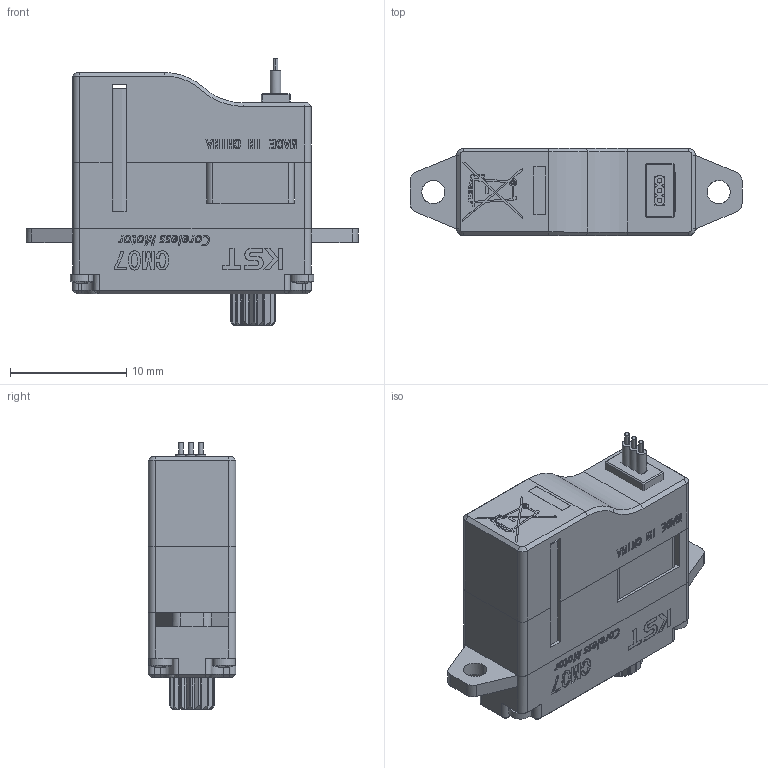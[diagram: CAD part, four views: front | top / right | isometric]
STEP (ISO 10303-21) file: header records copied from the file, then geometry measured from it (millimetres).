
FILE_DESCRIPTION (( 'STEP AP214' ), '1' );
FILE_NAME ('CM07_DM202602.STEP', '2026-05-23T06:09:05', ( '' ), ( '' ), 'SwSTEP 2.0', 'SolidWorks 2016', '' );
FILE_SCHEMA (( 'AUTOMOTIVE_DESIGN' ));
Length unit declared in the file: millimetre
Products named in the file (1): CM07_DM202602
Bounding box: 28.5 x 7.5 x 22.9 mm (x, y, z)
Surface area: 2090 mm2 (no closed solid volume)
Topology: 0 solids, 23 shells, 974 faces, 3329 edges, 2359 vertices
Faces by surface type: plane 579, bspline 203, cylinder 146, cone 38, sphere 8
Entity records: 58692 total; most frequent: CARTESIAN_POINT 20905, ORIENTED_EDGE 5688, DIRECTION 4782, EDGE_CURVE 3329, VERTEX_POINT 2359, LINE 2084, VECTOR 2084, AXIS2_PLACEMENT_3D 1349
